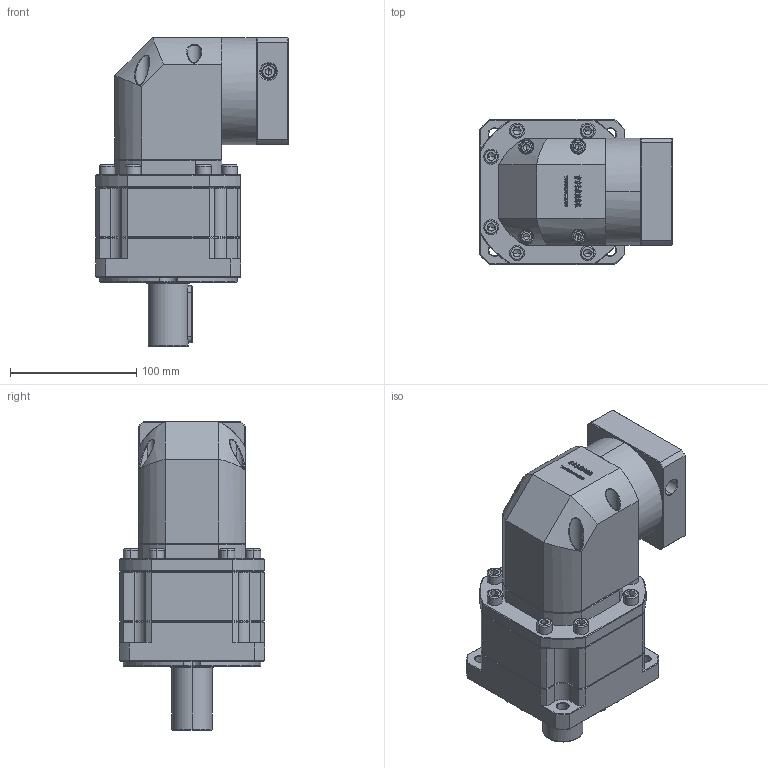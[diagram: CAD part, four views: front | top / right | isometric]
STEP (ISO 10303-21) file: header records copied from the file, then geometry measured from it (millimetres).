
FILE_DESCRIPTION (( 'STEP AP214' ), '1' );
FILE_NAME ('ZBR115A-D32-L2-16-80-100-M6.step', '2023-03-02T14:36:43', ( '' ), ( 'Microsoft' ), 'SwSTEP 2.0', 'SolidWorks 2016', '' );
FILE_SCHEMA (( 'AUTOMOTIVE_DESIGN' ));
Length unit declared in the file: millimetre
Products named in the file (1): ZBR115A-D32-L2-16-80-100-M6
Bounding box: 152.6 x 115 x 245 mm (x, y, z)
Volume: 1953863.2 mm3; surface area: 177866.4 mm2
Topology: 6 solids, 6 shells, 3201 faces, 8397 edges, 5349 vertices
Faces by surface type: plane 1699, bspline 633, cylinder 478, cone 377, torus 14
Entity records: 171135 total; most frequent: CARTESIAN_POINT 62210, ORIENTED_EDGE 16686, DIRECTION 12865, EDGE_CURVE 8343, VECTOR 5591, LINE 5591, VERTEX_POINT 5349, AXIS2_PLACEMENT_3D 3637
